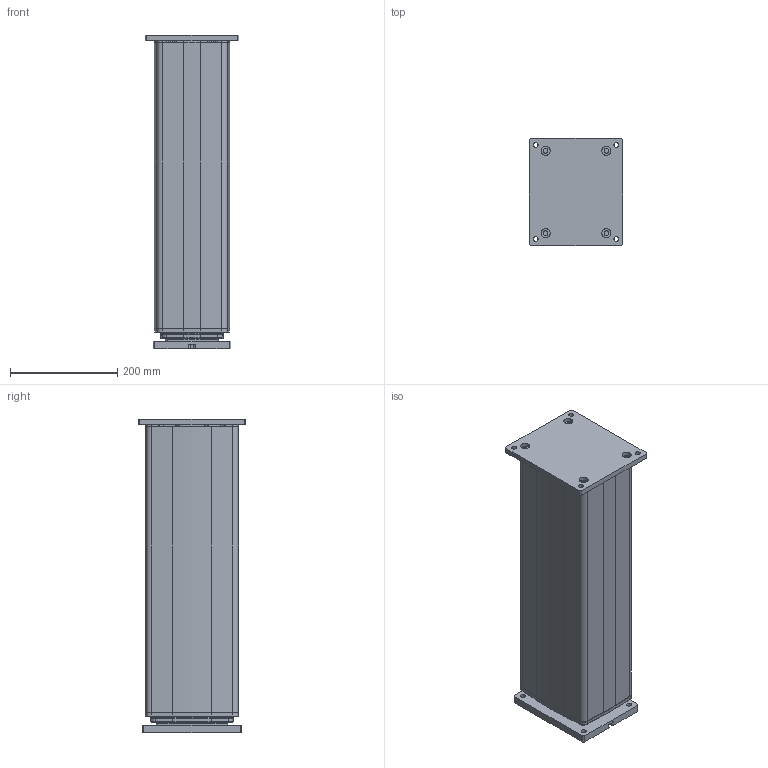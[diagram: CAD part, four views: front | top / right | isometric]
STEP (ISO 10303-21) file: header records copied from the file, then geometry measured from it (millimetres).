
FILE_DESCRIPTION((''),'2;1');
FILE_NAME('LC1-BID1-560_ASM_1_ASM','2023-05-08T09:29:35',('jak'),(''),'CREO PARAMETRIC BY PTC INC, 2022024','CREO PARAMETRIC BY PTC INC, 2022024','');
FILE_SCHEMA(('AUTOMOTIVE_DESIGN { 1 0 10303 214 1 1 1 1 }'));
Products named in the file (12): 1053W4000-F1_DESK_1; 1053W4000-F2_DESK_1; 1053W4000-F3_DESK_1; 1053W4000-BOTTOM_1; 1053W4000-MINIFIT-TOPENTRY_1_1; 1053W4000-MINIFIT-TOPENTRY_1_2; 1053W4000-MINIFIT-TOPENTRY_1_ASM; 1053W4000-1053W1008_1; 1053W4000-PLUG_1; 0801116_1; 1053W1086_1; LC1-BID1-560_ASM_1_ASM
Assembly tree (11 placements, depth 3):
  LC1-BID1-560_ASM_1_ASM
    1053W4000-F1_DESK_1
    1053W4000-F2_DESK_1
    1053W4000-F3_DESK_1
    1053W4000-BOTTOM_1
    1053W4000-MINIFIT-TOPENTRY_1_ASM
      1053W4000-MINIFIT-TOPENTRY_1_1
      1053W4000-MINIFIT-TOPENTRY_1_2
    1053W4000-1053W1008_1
    1053W4000-PLUG_1
    0801116_1
    1053W1086_1
Bounding box: 175 x 200 x 584 mm (x, y, z)
Surface area: 1163387.1 mm2
Topology: 10 solids, 20 shells, 2211 faces, 5847 edges, 3660 vertices
Faces by surface type: cylinder 804, plane 394, torus 352, cone 281, bspline 220, sphere 86, extrusion 72, revolution 2
Entity records: 83444 total; most frequent: CARTESIAN_POINT 29234, ORIENTED_EDGE 11532, DIRECTION 11184, EDGE_CURVE 5766, AXIS2_PLACEMENT_3D 4629, VERTEX_POINT 3659, CIRCLE 2687, EDGE_LOOP 2347
